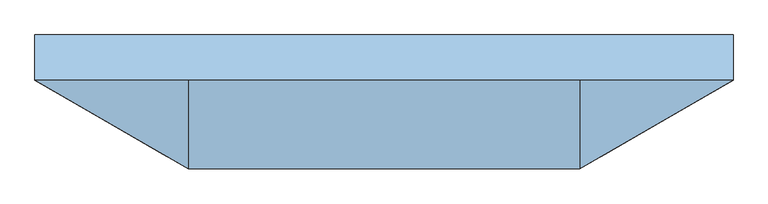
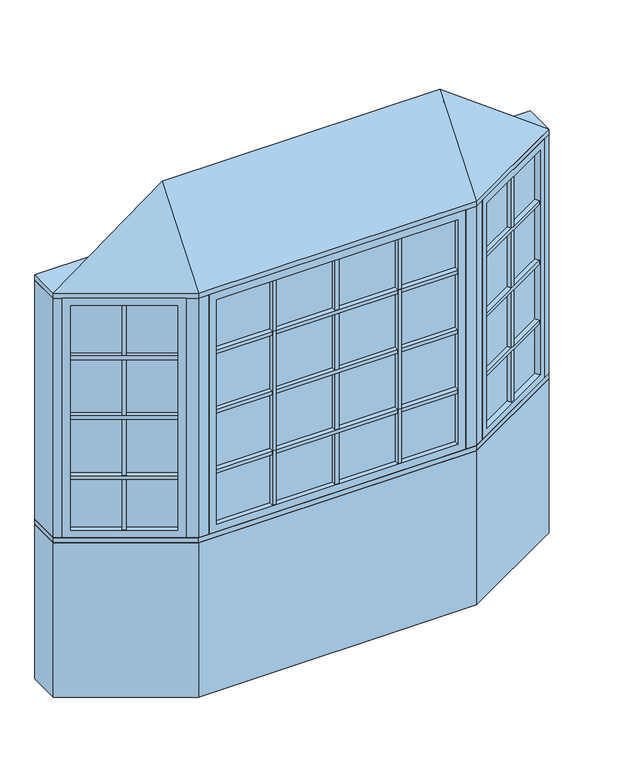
"""IFC4 building model written with IfcOpenShell, lengths in millimetres: window geometry, Pollard_Windows_Tudor Casement Bows and Bays : AML-BAY 30 AFR0612-12-500_GC."""

from ifc_helpers import new_model, si_unit, frame, origin, origin_with_axes, place, context, project, spatial, polyline, outline, extrude, faceted_brep, source, transform, mapped, element, save


def window_9e145141(model_context):
    return source(origin(), model_context, "Body", "SolidModel", [
        extrude(outline(polyline([(732.2305346, -327.3537343), (721.2305346, -308.3011754), (1102.1135794, -88.3982469), (1113.1135794, -107.4508058), (732.2305346, -327.3537343)])), frame((0.0, 0.0, 1390.998), z_axis=(0.0, 0.0, 1.0), x_axis=(1.0, 0.0, 0.0)), (0.0, 0.0, 1.0), 18.0),
        extrude(outline(polyline([(718.6905346, -303.9017664), (707.6905346, -284.8492075), (1088.5735794, -64.946279), (1099.5735794, -83.9988379), (718.6905346, -303.9017664)])), frame((0.0, 0.0, 1390.998), z_axis=(0.0, 0.0, 1.0), x_axis=(1.0, 0.0, 0.0)), (0.0, 0.0, 1.0), 18.0),
        extrude(outline(polyline([(732.2305346, -327.3537343), (721.2305346, -308.3011754), (1102.1135794, -88.3982469), (1113.1135794, -107.4508058), (732.2305346, -327.3537343)])), frame((0.0, 0.0, 1090.998), z_axis=(0.0, 0.0, 1.0), x_axis=(1.0, 0.0, 0.0)), (0.0, 0.0, 1.0), 18.0),
        extrude(outline(polyline([(718.6905346, -303.9017664), (707.6905346, -284.8492075), (1088.5735794, -64.946279), (1099.5735794, -83.9988379), (718.6905346, -303.9017664)])), frame((0.0, 0.0, 1090.998), z_axis=(0.0, 0.0, 1.0), x_axis=(1.0, 0.0, 0.0)), (0.0, 0.0, 1.0), 18.0),
        extrude(outline(polyline([(732.2305346, -327.3537343), (721.2305346, -308.3011754), (1102.1135794, -88.3982469), (1113.1135794, -107.4508058), (732.2305346, -327.3537343)])), frame((0.0, 0.0, 1390.998), z_axis=(0.0, 0.0, 1.0), x_axis=(1.0, 0.0, 0.0)), (0.0, 0.0, 1.0), 18.0),
        extrude(outline(polyline([(718.6905346, -303.9017664), (707.6905346, -284.8492075), (1088.5735794, -64.946279), (1099.5735794, -83.9988379), (718.6905346, -303.9017664)])), frame((0.0, 0.0, 1390.998), z_axis=(0.0, 0.0, 1.0), x_axis=(1.0, 0.0, 0.0)), (0.0, 0.0, 1.0), 18.0),
        extrude(outline(polyline([(732.2305346, -327.3537343), (721.2305346, -308.3011754), (1102.1135794, -88.3982469), (1113.1135794, -107.4508058), (732.2305346, -327.3537343)])), frame((0.0, 0.0, 1390.998), z_axis=(0.0, 0.0, 1.0), x_axis=(1.0, 0.0, 0.0)), (0.0, 0.0, 1.0), 18.0),
        extrude(outline(polyline([(718.6905346, -303.9017664), (707.6905346, -284.8492075), (1088.5735794, -64.946279), (1099.5735794, -83.9988379), (718.6905346, -303.9017664)])), frame((0.0, 0.0, 1390.998), z_axis=(0.0, 0.0, 1.0), x_axis=(1.0, 0.0, 0.0)), (0.0, 0.0, 1.0), 18.0),
        extrude(outline(polyline([(732.2305346, -327.3537343), (721.2305346, -308.3011754), (1102.1135794, -88.3982469), (1113.1135794, -107.4508058), (732.2305346, -327.3537343)])), frame((0.0, 0.0, 1690.998), z_axis=(0.0, 0.0, 1.0), x_axis=(1.0, 0.0, 0.0)), (0.0, 0.0, 1.0), 18.0),
        extrude(outline(polyline([(718.6905346, -303.9017664), (707.6905346, -284.8492075), (1088.5735794, -64.946279), (1099.5735794, -83.9988379), (718.6905346, -303.9017664)])), frame((0.0, 0.0, 1690.998), z_axis=(0.0, 0.0, 1.0), x_axis=(1.0, 0.0, 0.0)), (0.0, 0.0, 1.0), 18.0),
        extrude(outline(polyline([(919.4662856, -193.8497112), (930.4662856, -212.9022701), (914.8778284, -221.9022701), (903.8778284, -202.8497112), (919.4662856, -193.8497112)])), frame((0.0, 0.0, 835.8628), z_axis=(0.0, 0.0, 1.0), x_axis=(1.0, 0.0, 0.0)), (0.0, 0.0, 1.0), 1128.2704),
        extrude(outline(polyline([(916.9262856, -189.4503021), (901.3378284, -198.4503021), (890.3378284, -179.3977432), (905.9262856, -170.3977432), (916.9262856, -189.4503021)])), frame((0.0, 0.0, 835.8628), z_axis=(0.0, 0.0, 1.0), x_axis=(1.0, 0.0, 0.0)), (0.0, 0.0, 1.0), 1128.2704),
        extrude(outline(polyline([(1113.112102, -82.0482469), (710.2320119, -314.6511754), (707.6920119, -310.2517664), (1110.572102, -77.6488379), (1113.112102, -82.0482469)])), frame((0.0, 0.0, 823.1628), z_axis=(0.0, 0.0, 1.0), x_axis=(1.0, 0.0, 0.0)), (0.0, 0.0, 1.0), 1153.6704),
        faceted_brep([(1102.1135794, -88.3982469, 835.8628), (1114.8135794, -110.3952922, 835.8628), (1114.8135794, -110.3952922, 1964.1332), (1102.1135794, -88.3982469, 1964.1332), (1110.572102, -77.6488379, 823.1628), (1113.112102, -82.0482469, 823.1628), (1113.112102, -82.0482469, 1976.8332), (1110.572102, -77.6488379, 1976.8332), (1086.8735794, -62.0017926, 835.8628), (1099.5735794, -83.9988379, 835.8628), (1099.5735794, -83.9988379, 1964.1332), (1086.8735794, -62.0017926, 1964.1332), (1145.8734073, -92.4628922, 799.998), (1117.9334073, -44.0693926, 799.998), (1117.9334073, -44.0693926, 1999.998), (1145.8734073, -92.4628922, 1999.998), (733.9305346, -330.2982207, 1964.1332), (721.2305346, -308.3011754, 1964.1332), (710.2320119, -314.6511754, 1976.8332), (707.6920119, -310.2517664, 1976.8332), (718.6905346, -303.9017664, 1964.1332), (705.9905346, -281.9047211, 1964.1332), (674.9307067, -299.8371211, 1999.998), (702.8707067, -348.2306207, 1999.998), (733.9305346, -330.2982207, 835.8628), (721.2305346, -308.3011754, 835.8628), (710.2320119, -314.6511754, 823.1628), (707.6920119, -310.2517664, 823.1628), (718.6905346, -303.9017664, 835.8628), (705.9905346, -281.9047211, 835.8628), (674.9307067, -299.8371211, 799.998), (702.8707067, -348.2306207, 799.998)], [[[0, 1, 2, 3]], [[4, 5, 6, 7]], [[8, 9, 10, 11]], [[12, 13, 14, 15]], [[3, 2, 16, 17]], [[7, 6, 18, 19]], [[11, 10, 20, 21]], [[15, 14, 22, 23]], [[17, 16, 24, 25]], [[19, 18, 26, 27]], [[21, 20, 28, 29]], [[23, 22, 30, 31]], [[25, 24, 1, 0]], [[5, 26, 18, 6], [3, 17, 25, 0]], [[27, 26, 5, 4]], [[7, 19, 27, 4], [9, 28, 20, 10]], [[29, 28, 9, 8]], [[13, 30, 22, 14], [11, 21, 29, 8]], [[31, 30, 13, 12]], [[15, 23, 31, 12], [1, 24, 16, 2]]]),
        extrude(outline(polyline([(306.7024182, -347.8306207), (306.7024182, -369.8306207), (288.7024182, -369.8306207), (288.7024182, -347.8306207), (306.7024182, -347.8306207)])), frame((0.0, 0.0, 835.8628), z_axis=(0.0, 0.0, 1.0), x_axis=(1.0, 0.0, 0.0)), (0.0, 0.0, 1.0), 1128.2704),
        extrude(outline(polyline([(306.7024182, -342.7506207), (288.7024182, -342.7506207), (288.7024182, -320.7506207), (306.7024182, -320.7506207), (306.7024182, -342.7506207)])), frame((0.0, 0.0, 835.8628), z_axis=(0.0, 0.0, 1.0), x_axis=(1.0, 0.0, 0.0)), (0.0, 0.0, 1.0), 1128.2704),
        extrude(outline(polyline([(-288.7024182, -347.8306207), (-288.7024182, -369.8306207), (-306.7024182, -369.8306207), (-306.7024182, -347.8306207), (-288.7024182, -347.8306207)])), frame((0.0, 0.0, 835.8628), z_axis=(0.0, 0.0, 1.0), x_axis=(1.0, 0.0, 0.0)), (0.0, 0.0, 1.0), 1128.2704),
        extrude(outline(polyline([(-288.7024182, -342.7506207), (-306.7024182, -342.7506207), (-306.7024182, -320.7506207), (-288.7024182, -320.7506207), (-288.7024182, -342.7506207)])), frame((0.0, 0.0, 835.8628), z_axis=(0.0, 0.0, 1.0), x_axis=(1.0, 0.0, 0.0)), (0.0, 0.0, 1.0), 1128.2704),
        extrude(outline(polyline([(-573.7046365, -369.8306207), (-573.7046365, -347.8306207), (573.7046365, -347.8306207), (573.7046365, -369.8306207), (-573.7046365, -369.8306207)])), frame((0.0, 0.0, 1090.998), z_axis=(0.0, 0.0, 1.0), x_axis=(1.0, 0.0, 0.0)), (0.0, 0.0, 1.0), 18.0),
        extrude(outline(polyline([(-573.7046365, -342.7506207), (-573.7046365, -320.7506207), (573.7046365, -320.7506207), (573.7046365, -342.7506207), (-573.7046365, -342.7506207)])), frame((0.0, 0.0, 1090.998), z_axis=(0.0, 0.0, 1.0), x_axis=(1.0, 0.0, 0.0)), (0.0, 0.0, 1.0), 18.0),
        extrude(outline(polyline([(-573.7046365, -369.8306207), (-573.7046365, -347.8306207), (573.7046365, -347.8306207), (573.7046365, -369.8306207), (-573.7046365, -369.8306207)])), frame((0.0, 0.0, 1390.998), z_axis=(0.0, 0.0, 1.0), x_axis=(1.0, 0.0, 0.0)), (0.0, 0.0, 1.0), 18.0),
        extrude(outline(polyline([(-573.7046365, -342.7506207), (-573.7046365, -320.7506207), (573.7046365, -320.7506207), (573.7046365, -342.7506207), (-573.7046365, -342.7506207)])), frame((0.0, 0.0, 1390.998), z_axis=(0.0, 0.0, 1.0), x_axis=(1.0, 0.0, 0.0)), (0.0, 0.0, 1.0), 18.0),
        extrude(outline(polyline([(-573.7046365, -369.8306207), (-573.7046365, -347.8306207), (573.7046365, -347.8306207), (573.7046365, -369.8306207), (-573.7046365, -369.8306207)])), frame((0.0, 0.0, 1390.998), z_axis=(0.0, 0.0, 1.0), x_axis=(1.0, 0.0, 0.0)), (0.0, 0.0, 1.0), 18.0),
        extrude(outline(polyline([(-573.7046365, -342.7506207), (-573.7046365, -320.7506207), (573.7046365, -320.7506207), (573.7046365, -342.7506207), (-573.7046365, -342.7506207)])), frame((0.0, 0.0, 1390.998), z_axis=(0.0, 0.0, 1.0), x_axis=(1.0, 0.0, 0.0)), (0.0, 0.0, 1.0), 18.0),
        extrude(outline(polyline([(-573.7046365, -369.8306207), (-573.7046365, -347.8306207), (573.7046365, -347.8306207), (573.7046365, -369.8306207), (-573.7046365, -369.8306207)])), frame((0.0, 0.0, 1390.998), z_axis=(0.0, 0.0, 1.0), x_axis=(1.0, 0.0, 0.0)), (0.0, 0.0, 1.0), 18.0),
        extrude(outline(polyline([(-573.7046365, -342.7506207), (-573.7046365, -320.7506207), (573.7046365, -320.7506207), (573.7046365, -342.7506207), (-573.7046365, -342.7506207)])), frame((0.0, 0.0, 1390.998), z_axis=(0.0, 0.0, 1.0), x_axis=(1.0, 0.0, 0.0)), (0.0, 0.0, 1.0), 18.0),
        extrude(outline(polyline([(-1113.1135794, -107.4508058), (-1102.1135794, -88.3982469), (-721.2305346, -308.3011754), (-732.2305346, -327.3537343), (-1113.1135794, -107.4508058)])), frame((0.0, 0.0, 1090.998), z_axis=(0.0, 0.0, 1.0), x_axis=(1.0, 0.0, 0.0)), (0.0, 0.0, 1.0), 18.0),
        extrude(outline(polyline([(-1099.5735794, -83.9988379), (-1088.5735794, -64.946279), (-707.6905346, -284.8492075), (-718.6905346, -303.9017664), (-1099.5735794, -83.9988379)])), frame((0.0, 0.0, 1090.998), z_axis=(0.0, 0.0, 1.0), x_axis=(1.0, 0.0, 0.0)), (0.0, 0.0, 1.0), 18.0),
        extrude(outline(polyline([(-1113.1135794, -107.4508058), (-1102.1135794, -88.3982469), (-721.2305346, -308.3011754), (-732.2305346, -327.3537343), (-1113.1135794, -107.4508058)])), frame((0.0, 0.0, 1390.998), z_axis=(0.0, 0.0, 1.0), x_axis=(1.0, 0.0, 0.0)), (0.0, 0.0, 1.0), 18.0),
        extrude(outline(polyline([(-1099.5735794, -83.9988379), (-1088.5735794, -64.946279), (-707.6905346, -284.8492075), (-718.6905346, -303.9017664), (-1099.5735794, -83.9988379)])), frame((0.0, 0.0, 1390.998), z_axis=(0.0, 0.0, 1.0), x_axis=(1.0, 0.0, 0.0)), (0.0, 0.0, 1.0), 18.0),
        extrude(outline(polyline([(-1113.1135794, -107.4508058), (-1102.1135794, -88.3982469), (-721.2305346, -308.3011754), (-732.2305346, -327.3537343), (-1113.1135794, -107.4508058)])), frame((0.0, 0.0, 1390.998), z_axis=(0.0, 0.0, 1.0), x_axis=(1.0, 0.0, 0.0)), (0.0, 0.0, 1.0), 18.0),
        extrude(outline(polyline([(-1099.5735794, -83.9988379), (-1088.5735794, -64.946279), (-707.6905346, -284.8492075), (-718.6905346, -303.9017664), (-1099.5735794, -83.9988379)])), frame((0.0, 0.0, 1390.998), z_axis=(0.0, 0.0, 1.0), x_axis=(1.0, 0.0, 0.0)), (0.0, 0.0, 1.0), 18.0),
        extrude(outline(polyline([(-1113.1135794, -107.4508058), (-1102.1135794, -88.3982469), (-721.2305346, -308.3011754), (-732.2305346, -327.3537343), (-1113.1135794, -107.4508058)])), frame((0.0, 0.0, 1390.998), z_axis=(0.0, 0.0, 1.0), x_axis=(1.0, 0.0, 0.0)), (0.0, 0.0, 1.0), 18.0),
        extrude(outline(polyline([(-1099.5735794, -83.9988379), (-1088.5735794, -64.946279), (-707.6905346, -284.8492075), (-718.6905346, -303.9017664), (-1099.5735794, -83.9988379)])), frame((0.0, 0.0, 1390.998), z_axis=(0.0, 0.0, 1.0), x_axis=(1.0, 0.0, 0.0)), (0.0, 0.0, 1.0), 18.0),
        extrude(outline(polyline([(-1113.1135794, -107.4508058), (-1102.1135794, -88.3982469), (-721.2305346, -308.3011754), (-732.2305346, -327.3537343), (-1113.1135794, -107.4508058)])), frame((0.0, 0.0, 1690.998), z_axis=(0.0, 0.0, 1.0), x_axis=(1.0, 0.0, 0.0)), (0.0, 0.0, 1.0), 18.0),
        extrude(outline(polyline([(-1099.5735794, -83.9988379), (-1088.5735794, -64.946279), (-707.6905346, -284.8492075), (-718.6905346, -303.9017664), (-1099.5735794, -83.9988379)])), frame((0.0, 0.0, 1690.998), z_axis=(0.0, 0.0, 1.0), x_axis=(1.0, 0.0, 0.0)), (0.0, 0.0, 1.0), 18.0),
        extrude(outline(polyline([(-573.7046365, -369.8306207), (-573.7046365, -347.8306207), (573.7046365, -347.8306207), (573.7046365, -369.8306207), (-573.7046365, -369.8306207)])), frame((0.0, 0.0, 1690.998), z_axis=(0.0, 0.0, 1.0), x_axis=(1.0, 0.0, 0.0)), (0.0, 0.0, 1.0), 18.0),
        extrude(outline(polyline([(-573.7046365, -342.7506207), (-573.7046365, -320.7506207), (573.7046365, -320.7506207), (573.7046365, -342.7506207), (-573.7046365, -342.7506207)])), frame((0.0, 0.0, 1690.998), z_axis=(0.0, 0.0, 1.0), x_axis=(1.0, 0.0, 0.0)), (0.0, 0.0, 1.0), 18.0),
        extrude(outline(polyline([(-903.8778284, -202.8497112), (-914.8778284, -221.9022701), (-930.4662856, -212.9022701), (-919.4662856, -193.8497112), (-903.8778284, -202.8497112)])), frame((0.0, 0.0, 835.8628), z_axis=(0.0, 0.0, 1.0), x_axis=(1.0, 0.0, 0.0)), (0.0, 0.0, 1.0), 1128.2704),
        extrude(outline(polyline([(-901.3378284, -198.4503021), (-916.9262856, -189.4503021), (-905.9262856, -170.3977432), (-890.3378284, -179.3977432), (-901.3378284, -198.4503021)])), frame((0.0, 0.0, 835.8628), z_axis=(0.0, 0.0, 1.0), x_axis=(1.0, 0.0, 0.0)), (0.0, 0.0, 1.0), 1128.2704),
        extrude(outline(polyline([(9.0, -347.8306207), (9.0, -369.8306207), (-9.0, -369.8306207), (-9.0, -347.8306207), (9.0, -347.8306207)])), frame((0.0, 0.0, 835.8628), z_axis=(0.0, 0.0, 1.0), x_axis=(1.0, 0.0, 0.0)), (0.0, 0.0, 1.0), 1128.2704),
        extrude(outline(polyline([(9.0, -342.7506207), (-9.0, -342.7506207), (-9.0, -320.7506207), (9.0, -320.7506207), (9.0, -342.7506207)])), frame((0.0, 0.0, 835.8628), z_axis=(0.0, 0.0, 1.0), x_axis=(1.0, 0.0, 0.0)), (0.0, 0.0, 1.0), 1128.2704),
        extrude(outline(polyline([(-710.2320119, -314.6511754), (-1113.112102, -82.0482469), (-1110.572102, -77.6488379), (-707.6920119, -310.2517664), (-710.2320119, -314.6511754)])), frame((0.0, 0.0, 823.1628), z_axis=(0.0, 0.0, 1.0), x_axis=(1.0, 0.0, 0.0)), (0.0, 0.0, 1.0), 1153.6704),
        faceted_brep([(-718.6905346, -303.9017664, 1964.1332), (-705.9905346, -281.9047211, 1964.1332), (-705.9905346, -281.9047211, 835.8628), (-718.6905346, -303.9017664, 835.8628), (-710.2320119, -314.6511754, 1976.8332), (-707.6920119, -310.2517664, 1976.8332), (-707.6920119, -310.2517664, 823.1628), (-710.2320119, -314.6511754, 823.1628), (-733.9305346, -330.2982207, 1964.1332), (-721.2305346, -308.3011754, 1964.1332), (-721.2305346, -308.3011754, 835.8628), (-733.9305346, -330.2982207, 835.8628), (-674.9307067, -299.8371211, 1999.998), (-702.8707067, -348.2306207, 1999.998), (-702.8707067, -348.2306207, 799.998), (-674.9307067, -299.8371211, 799.998), (-1086.8735794, -62.0017926, 835.8628), (-1099.5735794, -83.9988379, 835.8628), (-1110.572102, -77.6488379, 823.1628), (-1113.112102, -82.0482469, 823.1628), (-1102.1135794, -88.3982469, 835.8628), (-1114.8135794, -110.3952922, 835.8628), (-1145.8734073, -92.4628922, 799.998), (-1117.9334073, -44.0693926, 799.998), (-1086.8735794, -62.0017926, 1964.1332), (-1099.5735794, -83.9988379, 1964.1332), (-1110.572102, -77.6488379, 1976.8332), (-1113.112102, -82.0482469, 1976.8332), (-1102.1135794, -88.3982469, 1964.1332), (-1114.8135794, -110.3952922, 1964.1332), (-1145.8734073, -92.4628922, 1999.998), (-1117.9334073, -44.0693926, 1999.998)], [[[0, 1, 2, 3]], [[4, 5, 6, 7]], [[8, 9, 10, 11]], [[12, 13, 14, 15]], [[3, 2, 16, 17]], [[7, 6, 18, 19]], [[11, 10, 20, 21]], [[15, 14, 22, 23]], [[17, 16, 24, 25]], [[19, 18, 26, 27]], [[21, 20, 28, 29]], [[23, 22, 30, 31]], [[15, 23, 31, 12], [1, 24, 16, 2]], [[25, 24, 1, 0]], [[5, 26, 18, 6], [3, 17, 25, 0]], [[27, 26, 5, 4]], [[7, 19, 27, 4], [9, 28, 20, 10]], [[29, 28, 9, 8]], [[13, 30, 22, 14], [11, 21, 29, 8]], [[31, 30, 13, 12]]]),
        extrude(outline(polyline([(586.4046365, -347.8306207), (-586.4046365, -347.8306207), (-586.4046365, -342.7506207), (586.4046365, -342.7506207), (586.4046365, -347.8306207)])), frame((0.0, 0.0, 823.1628), z_axis=(0.0, 0.0, 1.0), x_axis=(1.0, 0.0, 0.0)), (0.0, 0.0, 1.0), 1153.6704),
        faceted_brep([(573.7046365, -347.8306207, 835.8628), (573.7046365, -373.2306207, 835.8628), (573.7046365, -373.2306207, 1964.1332), (573.7046365, -347.8306207, 1964.1332), (586.4046365, -342.7506207, 823.1628), (586.4046365, -347.8306207, 823.1628), (586.4046365, -347.8306207, 1976.8332), (586.4046365, -342.7506207, 1976.8332), (573.7046365, -317.3506207, 835.8628), (573.7046365, -342.7506207, 835.8628), (573.7046365, -342.7506207, 1964.1332), (573.7046365, -317.3506207, 1964.1332), (609.5694365, -373.2306207, 799.998), (609.5694365, -317.3506207, 799.998), (609.5694365, -317.3506207, 1999.998), (609.5694365, -373.2306207, 1999.998), (-573.7046365, -373.2306207, 1964.1332), (-573.7046365, -347.8306207, 1964.1332), (-586.4046365, -347.8306207, 1976.8332), (-586.4046365, -342.7506207, 1976.8332), (-573.7046365, -342.7506207, 1964.1332), (-573.7046365, -317.3506207, 1964.1332), (-609.5694365, -317.3506207, 1999.998), (-609.5694365, -373.2306207, 1999.998), (-573.7046365, -373.2306207, 835.8628), (-573.7046365, -347.8306207, 835.8628), (-586.4046365, -347.8306207, 823.1628), (-586.4046365, -342.7506207, 823.1628), (-573.7046365, -342.7506207, 835.8628), (-573.7046365, -317.3506207, 835.8628), (-609.5694365, -317.3506207, 799.998), (-609.5694365, -373.2306207, 799.998)], [[[0, 1, 2, 3]], [[4, 5, 6, 7]], [[8, 9, 10, 11]], [[12, 13, 14, 15]], [[3, 2, 16, 17]], [[7, 6, 18, 19]], [[11, 10, 20, 21]], [[15, 14, 22, 23]], [[17, 16, 24, 25]], [[19, 18, 26, 27]], [[21, 20, 28, 29]], [[23, 22, 30, 31]], [[15, 23, 31, 12], [1, 24, 16, 2]], [[25, 24, 1, 0]], [[5, 26, 18, 6], [3, 17, 25, 0]], [[27, 26, 5, 4]], [[7, 19, 27, 4], [9, 28, 20, 10]], [[29, 28, 9, 8]], [[13, 30, 22, 14], [11, 21, 29, 8]], [[31, 30, 13, 12]]]),
        faceted_brep([(1176.5, -74.7806207, 2025.398), (659.5694365, -373.2306207, 2025.398), (-659.5694365, -373.2306207, 2025.398), (-1176.5, -74.7806207, 2025.398), (-659.5694365, -74.7806207, 2406.398), (659.5694365, -74.7806207, 2406.398)], [[[0, 1, 2, 3]], [[3, 2, 4]], [[2, 1, 5, 4]], [[1, 0, 5]], [[0, 3, 4, 5]]]),
        extrude(outline(polyline([(-1176.5, 77.6193793), (1176.5, 77.6193793), (1176.5, -74.7806207), (659.5694365, -373.2306207), (-659.5694365, -373.2306207), (-1176.5, -74.7806207), (-1176.5, 77.6193793)])), frame((0.0, 0.0, 1999.998), z_axis=(0.0, 0.0, 1.0), x_axis=(1.0, 0.0, 0.0)), (0.0, 0.0, 1.0), 25.4),
        extrude(outline(polyline([(-1176.5, -74.7806207), (-1176.5, 77.6193793), (-1135.6645431, 77.6193793), (-1135.6645431, -74.7806207), (-1145.8734073, -92.4628922), (-1176.5, -74.7806207)])), frame((0.0, 0.0, 799.998), z_axis=(0.0, 0.0, 1.0), x_axis=(1.0, 0.0, 0.0)), (0.0, 0.0, 1.0), 1200.0),
        extrude(outline(polyline([(1176.5, 77.6193793), (1176.5, -74.7806207), (1145.8734073, -92.4628922), (1135.6645431, -74.7806207), (1135.6645431, 77.6193793), (1176.5, 77.6193793)])), frame((0.0, 0.0, 799.998), z_axis=(0.0, 0.0, 1.0), x_axis=(1.0, 0.0, 0.0)), (0.0, 0.0, 1.0), 1200.0),
        extrude(outline(polyline([(659.5694365, -373.2306207), (609.5694365, -373.2306207), (609.5694365, -323.2306207), (646.1719769, -323.2306207), (677.8707067, -304.9293505), (702.8707067, -348.2306207), (659.5694365, -373.2306207)])), frame((0.0, 0.0, 799.998), z_axis=(0.0, 0.0, 1.0), x_axis=(1.0, 0.0, 0.0)), (0.0, 0.0, 1.0), 1200.0),
        extrude(outline(polyline([(-659.5694365, -373.2306207), (-702.8707067, -348.2306207), (-677.8707067, -304.9293505), (-646.1719769, -323.2306207), (-609.5694365, -323.2306207), (-609.5694365, -373.2306207), (-659.5694365, -373.2306207)])), frame((0.0, 0.0, 799.998), z_axis=(0.0, 0.0, 1.0), x_axis=(1.0, 0.0, 0.0)), (0.0, 0.0, 1.0), 1200.0),
        extrude(outline(polyline([(-659.5694365, -373.2306207), (-1176.5, -74.7806207), (-1176.5, 77.6193793), (-1135.6645431, 77.6193793), (-618.7339796, -220.8306207), (618.7339796, -220.8306207), (1135.6645431, 77.6193793), (1176.5, 77.6193793), (1176.5, -74.7806207), (659.5694365, -373.2306207), (-659.5694365, -373.2306207)])), frame((0.0, 0.0, 774.598), z_axis=(0.0, 0.0, 1.0), x_axis=(1.0, 0.0, 0.0)), (0.0, 0.0, 1.0), 25.4),
        extrude(outline(polyline([(-1176.5, -74.7806207), (-1176.5, 77.6193793), (-1135.6645431, 77.6193793), (-618.7339796, -220.8306207), (618.7339796, -220.8306207), (1135.6645431, 77.6193793), (1176.5, 77.6193793), (1176.5, -74.7806207), (659.5694365, -373.2306207), (-659.5694365, -373.2306207), (-1176.5, -74.7806207)])), origin_with_axes(), (0.0, 0.0, 1.0), 774.598),
    ])


if __name__ == "__main__":
    model = new_model("IFC4")
    model_context = context("Model", 3, world=origin())
    ifc_project = project(units=[si_unit("LENGTHUNIT", "METRE", prefix="MILLI")], contexts=[model_context])
    site = spatial("IfcSite", under=ifc_project)
    building = spatial("IfcBuilding", under=site)
    placement = place(None, origin())
    window_shape = window_9e145141(model_context)
    element("IfcWindow", 1, ObjectType="Pollard_Windows_Tudor Casement Bows and Bays : AML-BAY 30 AFR0612-12-500_GC", at=placement, inside=building, context=model_context, shape_type="MappedRepresentation", body=[
        mapped(window_shape, transform((0.0, 0.0, 0.0), x_axis=(1.0, 0.0, 0.0), y_axis=(0.0, 1.0, 0.0), z_axis=(0.0, 0.0, 1.0))),
    ])
    save(model, "model.ifc")
